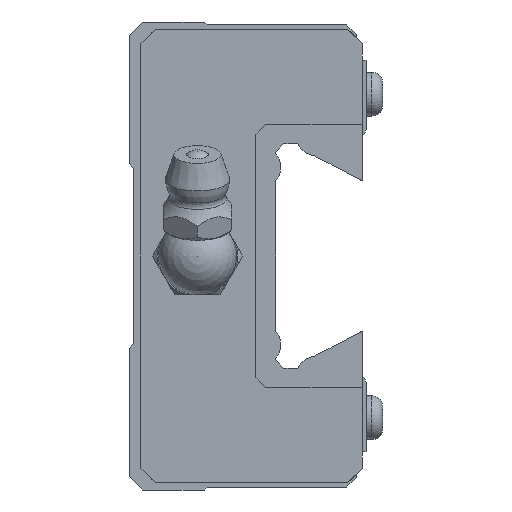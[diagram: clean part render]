
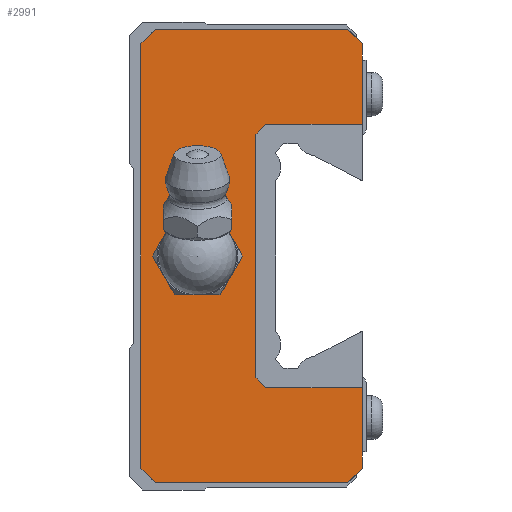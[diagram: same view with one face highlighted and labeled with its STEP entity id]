
A CAD part, left-side view. The second image highlights one B-rep face of the part: STEP entity #2991.
In plain terms, the highlighted planar face has unit normal (-1, 0, 0).
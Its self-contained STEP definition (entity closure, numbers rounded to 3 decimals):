
#118=LINE('',#4506,#426);
#133=LINE('',#4537,#441);
#140=LINE('',#4551,#448);
#144=LINE('',#4558,#452);
#154=LINE('',#4579,#462);
#157=LINE('',#4584,#465);
#165=LINE('',#4596,#473);
#190=LINE('',#4654,#498);
#283=LINE('',#4900,#591);
#289=LINE('',#4918,#597);
#290=LINE('',#4921,#598);
#291=LINE('',#4922,#599);
#292=LINE('',#4924,#600);
#293=LINE('',#4926,#601);
#426=VECTOR('',#3549,1000.);
#441=VECTOR('',#3566,1000.);
#448=VECTOR('',#3577,1000.);
#452=VECTOR('',#3583,1000.);
#462=VECTOR('',#3595,1000.);
#465=VECTOR('',#3600,1000.);
#473=VECTOR('',#3616,1000.);
#498=VECTOR('',#3661,1000.);
#591=VECTOR('',#3898,1000.);
#597=VECTOR('',#3916,1000.);
#598=VECTOR('',#3917,1000.);
#599=VECTOR('',#3918,1000.);
#600=VECTOR('',#3919,1000.);
#601=VECTOR('',#3920,1000.);
#742=PLANE('',#3243);
#856=CIRCLE('',#3244,3.);
#1456=ORIENTED_EDGE('',*,*,#2025,.T.);
#1457=ORIENTED_EDGE('',*,*,#2026,.T.);
#1458=ORIENTED_EDGE('',*,*,#2027,.T.);
#1459=ORIENTED_EDGE('',*,*,#1901,.F.);
#1460=ORIENTED_EDGE('',*,*,#1851,.F.);
#1461=ORIENTED_EDGE('',*,*,#1847,.F.);
#1462=ORIENTED_EDGE('',*,*,#1840,.F.);
#1463=ORIENTED_EDGE('',*,*,#1872,.F.);
#1464=ORIENTED_EDGE('',*,*,#1825,.F.);
#1465=ORIENTED_EDGE('',*,*,#1864,.F.);
#1466=ORIENTED_EDGE('',*,*,#1861,.F.);
#1467=ORIENTED_EDGE('',*,*,#2018,.F.);
#1468=ORIENTED_EDGE('',*,*,#2028,.T.);
#1469=ORIENTED_EDGE('',*,*,#2029,.T.);
#1470=ORIENTED_EDGE('',*,*,#2030,.T.);
#1825=EDGE_CURVE('',#2202,#2203,#118,.T.);
#1840=EDGE_CURVE('',#2217,#2218,#133,.T.);
#1847=EDGE_CURVE('',#2218,#2223,#140,.T.);
#1851=EDGE_CURVE('',#2223,#2225,#144,.T.);
#1861=EDGE_CURVE('',#2234,#2235,#154,.T.);
#1864=EDGE_CURVE('',#2235,#2202,#157,.T.);
#1872=EDGE_CURVE('',#2203,#2217,#165,.T.);
#1901=EDGE_CURVE('',#2225,#2259,#190,.T.);
#2018=EDGE_CURVE('',#2339,#2234,#283,.T.);
#2025=EDGE_CURVE('',#2345,#2345,#856,.T.);
#2026=EDGE_CURVE('',#2346,#2347,#289,.T.);
#2027=EDGE_CURVE('',#2347,#2259,#290,.T.);
#2028=EDGE_CURVE('',#2339,#2348,#291,.T.);
#2029=EDGE_CURVE('',#2348,#2349,#292,.T.);
#2030=EDGE_CURVE('',#2349,#2346,#293,.T.);
#2202=VERTEX_POINT('',#4505);
#2203=VERTEX_POINT('',#4507);
#2217=VERTEX_POINT('',#4536);
#2218=VERTEX_POINT('',#4538);
#2223=VERTEX_POINT('',#4552);
#2225=VERTEX_POINT('',#4559);
#2234=VERTEX_POINT('',#4578);
#2235=VERTEX_POINT('',#4580);
#2259=VERTEX_POINT('',#4655);
#2339=VERTEX_POINT('',#4899);
#2345=VERTEX_POINT('',#4917);
#2346=VERTEX_POINT('',#4919);
#2347=VERTEX_POINT('',#4920);
#2348=VERTEX_POINT('',#4923);
#2349=VERTEX_POINT('',#4925);
#2566=EDGE_LOOP('',(#1456));
#2567=EDGE_LOOP('',(#1457,#1458,#1459,#1460,#1461,#1462,#1463,#1464,#1465,
#1466,#1467,#1468,#1469,#1470));
#2783=FACE_BOUND('',#2566,.T.);
#2784=FACE_BOUND('',#2567,.T.);
#2991=ADVANCED_FACE('',(#2783,#2784),#742,.F.);
#3243=AXIS2_PLACEMENT_3D('',#4915,#3912,#3913);
#3244=AXIS2_PLACEMENT_3D('',#4916,#3914,#3915);
#3549=DIRECTION('',(0.,0.707,0.707));
#3566=DIRECTION('',(0.,-0.707,0.707));
#3577=DIRECTION('',(0.,-1.,0.));
#3583=DIRECTION('',(0.,-0.707,-0.707));
#3595=DIRECTION('',(0.,0.707,-0.707));
#3600=DIRECTION('',(0.,1.,0.));
#3616=DIRECTION('',(0.,0.,1.));
#3661=DIRECTION('',(0.,0.,-1.));
#3898=DIRECTION('',(0.,0.,-1.));
#3912=DIRECTION('',(1.,0.,0.));
#3913=DIRECTION('',(0.,0.,-1.));
#3914=DIRECTION('',(1.,0.,0.));
#3915=DIRECTION('',(0.,0.,-1.));
#3916=DIRECTION('',(0.,-0.707,0.707));
#3917=DIRECTION('',(0.,-1.,0.));
#3918=DIRECTION('',(0.,1.,0.));
#3919=DIRECTION('',(0.,0.707,0.707));
#3920=DIRECTION('',(0.,0.,1.));
#4505=CARTESIAN_POINT('',(-39.5,23.3,-23.25));
#4506=CARTESIAN_POINT('',(-39.5,23.3,-23.25));
#4507=CARTESIAN_POINT('',(-39.5,24.8,-21.75));
#4536=CARTESIAN_POINT('',(-39.5,24.8,21.75));
#4537=CARTESIAN_POINT('',(-39.5,24.8,21.75));
#4538=CARTESIAN_POINT('',(-39.5,23.3,23.25));
#4551=CARTESIAN_POINT('',(-39.5,23.3,23.25));
#4552=CARTESIAN_POINT('',(-39.5,3.6,23.25));
#4558=CARTESIAN_POINT('',(-39.5,3.6,23.25));
#4559=CARTESIAN_POINT('',(-39.5,2.1,21.75));
#4578=CARTESIAN_POINT('',(-39.5,2.1,-21.75));
#4579=CARTESIAN_POINT('',(-39.5,2.1,-21.75));
#4580=CARTESIAN_POINT('',(-39.5,3.6,-23.25));
#4584=CARTESIAN_POINT('',(-39.5,3.6,-23.25));
#4596=CARTESIAN_POINT('',(-39.5,24.8,-21.75));
#4654=CARTESIAN_POINT('',(-39.5,2.1,21.75));
#4655=CARTESIAN_POINT('',(-39.5,2.1,13.5));
#4899=CARTESIAN_POINT('',(-39.5,2.1,-13.5));
#4900=CARTESIAN_POINT('',(-39.5,2.1,21.75));
#4915=CARTESIAN_POINT('',(-39.5,0.,0.));
#4916=CARTESIAN_POINT('',(-39.5,19.,0.));
#4917=CARTESIAN_POINT('',(-39.5,19.,-3.));
#4918=CARTESIAN_POINT('',(-39.5,13.,12.5));
#4919=CARTESIAN_POINT('',(-39.5,13.,12.5));
#4920=CARTESIAN_POINT('',(-39.5,12.,13.5));
#4921=CARTESIAN_POINT('',(-39.5,12.,13.5));
#4922=CARTESIAN_POINT('',(-39.5,2.1,-13.5));
#4923=CARTESIAN_POINT('',(-39.5,12.,-13.5));
#4924=CARTESIAN_POINT('',(-39.5,12.,-13.5));
#4925=CARTESIAN_POINT('',(-39.5,13.,-12.5));
#4926=CARTESIAN_POINT('',(-39.5,13.,-12.5));
